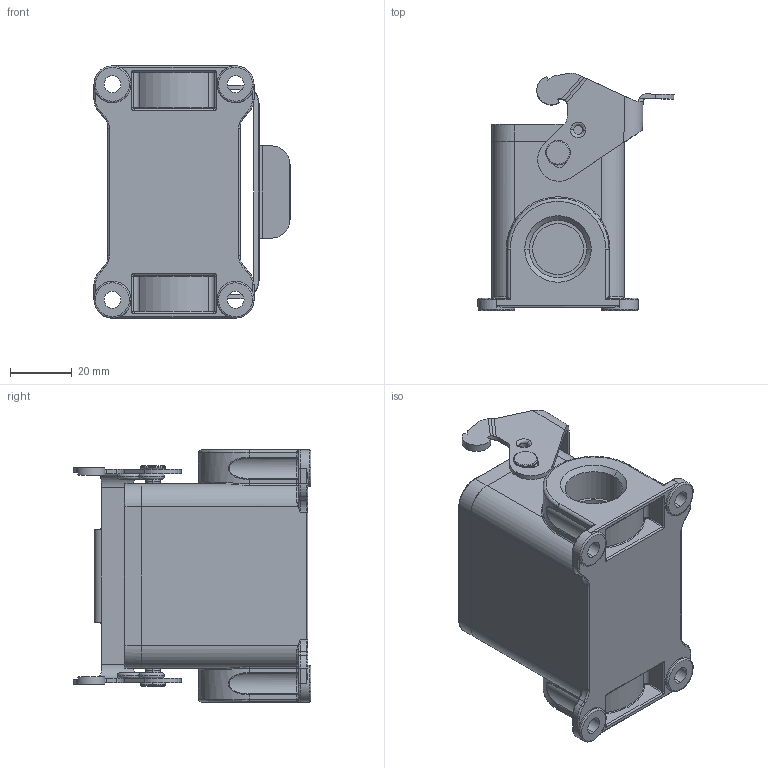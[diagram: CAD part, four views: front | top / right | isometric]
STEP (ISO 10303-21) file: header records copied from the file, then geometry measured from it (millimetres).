
FILE_DESCRIPTION (( 'STEP AP203' ), '1' );
FILE_NAME ('H6B-SGR-M20&M25.STEP', '2020-11-21T02:40:33', ( '' ), ( '' ), 'SwSTEP 2.0', 'SolidWorks 2016', '' );
FILE_SCHEMA (( 'CONFIG_CONTROL_DESIGN' ));
Length unit declared in the file: millimetre
Products named in the file (7): h6bjinshudankou; prt0001; 6bdankou; H6B-SGR-M20&M25; tanhuang; 6b-surface-m-lowconstruction; maoding
Assembly tree (8 placements, depth 3):
  H6B-SGR-M20&M25
    6b-surface-m-lowconstruction
    h6bjinshudankou
      6bdankou
      tanhuang  x2
      maoding  x2
    prt0001
Bounding box: 63.7 x 77.21 x 82 mm (x, y, z)
Volume: 68127.2 mm3; surface area: 42141 mm2
Topology: 6 solids, 7 shells, 698 faces, 1687 edges, 1018 vertices
Faces by surface type: cylinder 266, bspline 216, plane 163, cone 53
Entity records: 27868 total; most frequent: CARTESIAN_POINT 13050, ORIENTED_EDGE 3174, DIRECTION 2631, EDGE_CURVE 1603, AXIS2_PLACEMENT_3D 1004, VERTEX_POINT 973, EDGE_LOOP 702, ADVANCED_FACE 656
